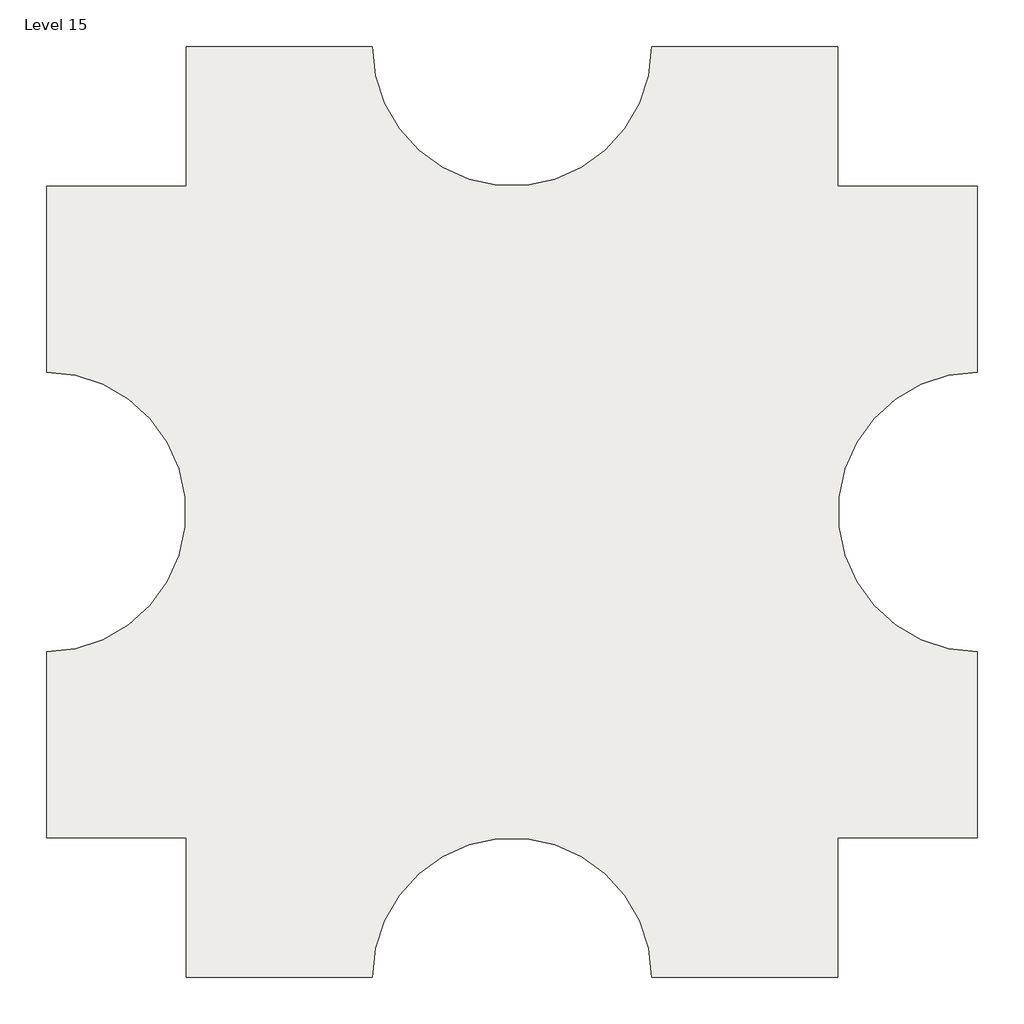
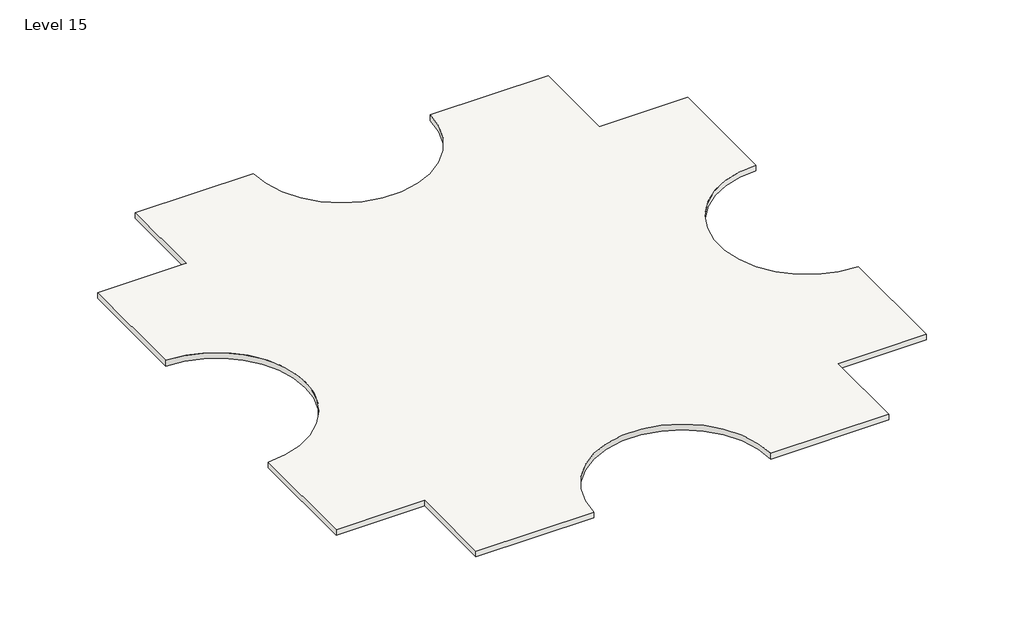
# One storey: 1 slab.
"""IFC4 building model written with IfcOpenShell, lengths in millimetres."""

import ifcopenshell
import ifcopenshell.guid

model = None  # the IFC model being written
_history = None  # IfcOwnerHistory: only IFC2X3 demands one
_inside = {}  # id of a spatial element -> (the spatial element, [elements in it])
_under = {}  # id of a project, library or spatial element -> (it, [spatial elements below it])
_declared = {}  # id of a project -> (the project, [libraries it declares])
_typed = {}  # id of a type object -> (the type object, [elements of that type])
_made_of = {}  # id of a material, layer set ... -> (it, [elements and type objects made of it])


def new_model(schema):
    """Start an empty IFC model of exactly this schema.

    Asked for "IFC4X3", IfcOpenShell would pick the latest addendum, in which some entities
    have other attributes; the version numbers below select the first issue.
    IFC2X3 requires an IfcOwnerHistory on every rooted entity: one is made here for all.
    """
    global model, _history
    if schema == "IFC4X3":
        model = ifcopenshell.file(schema_version=(4, 3, 0, 0))
    else:
        model = ifcopenshell.file(schema=schema)
    _inside.clear()
    _under.clear()
    _declared.clear()
    _typed.clear()
    _made_of.clear()
    _history = None
    if model.schema == "IFC2X3":
        org = make("IfcOrganization", Name="unknown")
        user = make(
            "IfcPersonAndOrganization",
            ThePerson=make("IfcPerson", FamilyName="unknown"),
            TheOrganization=org,
        )
        app = make(
            "IfcApplication",
            ApplicationDeveloper=org,
            Version="unknown",
            ApplicationFullName="unknown",
            ApplicationIdentifier="unknown",
        )
        _history = make(
            "IfcOwnerHistory",
            OwningUser=user,
            OwningApplication=app,
            ChangeAction="ADDED",
            CreationDate=0,
        )
    return model


def make(cls, **values):
    """One entity of the class cls with the attributes given. An attribute that is None is left unset."""
    return model.create_entity(
        cls, **{name: value for name, value in values.items() if value is not None}
    )


def rooted(cls, **values):
    """An entity with a GlobalId (a new one), such as an element, a storey or a relation."""
    return make(cls, GlobalId=ifcopenshell.guid.new(), OwnerHistory=_history, **values)


def si_unit(unit_type, name, prefix=None):
    """IfcSIUnit, for example si_unit("LENGTHUNIT", "METRE", prefix="MILLI")."""
    return make("IfcSIUnit", UnitType=unit_type, Prefix=prefix, Name=name)


def assignment(units):
    """IfcUnitAssignment: the units of a project."""
    return None if units is None else make("IfcUnitAssignment", Units=units)


def point(xyz):
    """IfcCartesianPoint."""
    return None if xyz is None else make("IfcCartesianPoint", Coordinates=xyz)


def direction(xyz):
    """IfcDirection."""
    return None if xyz is None else make("IfcDirection", DirectionRatios=xyz)


def frame(location, z_axis=None, x_axis=None):
    """IfcAxis2Placement3D, a coordinate frame: its origin and axes. An axis left out is left unset."""
    return make(
        "IfcAxis2Placement3D",
        Location=point(location),
        Axis=direction(z_axis),
        RefDirection=direction(x_axis),
    )


def frame_2d(location, x_axis=None):
    """IfcAxis2Placement2D, a coordinate frame in the plane: its origin and x axis."""
    return make(
        "IfcAxis2Placement2D", Location=point(location), RefDirection=direction(x_axis)
    )


def origin():
    """The frame at (0, 0, 0) with its axes left unset."""
    return frame((0.0, 0.0, 0.0))


def place(relative_to, where):
    """IfcLocalPlacement: puts the frame where relative to a parent placement (None: the world)."""
    return make(
        "IfcLocalPlacement", PlacementRelTo=relative_to, RelativePlacement=where
    )


def context(
    kind, dimensions, precision=None, world=None, true_north=None, identifier=None
):
    """IfcGeometricRepresentationContext, for example the 3D "Model" context."""
    return make(
        "IfcGeometricRepresentationContext",
        ContextIdentifier=identifier,
        ContextType=kind,
        CoordinateSpaceDimension=dimensions,
        Precision=precision,
        WorldCoordinateSystem=world,
        TrueNorth=true_north,
    )


def project(units=None, contexts=None):
    """IfcProject with its units and contexts."""
    return rooted(
        "IfcProject",
        Name="project",
        RepresentationContexts=contexts,
        UnitsInContext=assignment(units),
    )


def spatial(cls, under=None, at=None, **own):
    """A site, building, storey or space (cls), placed at a placement, below another one or the project."""
    s = rooted(cls, ObjectPlacement=at, **own)
    if under is not None:
        _under.setdefault(under.id(), (under, []))[1].append(s)
    return s


def polyline(points):
    """IfcPolyline through the points."""
    return make("IfcPolyline", Points=[point(p) for p in points])


def circle_curve(where, radius):
    """IfcCircle in the frame where."""
    return make("IfcCircle", Position=where, Radius=radius)


def trimmed(basis, trim1, trim2, sense, master):
    """IfcTrimmedCurve: the piece of a basis curve between two trims."""
    return make(
        "IfcTrimmedCurve",
        BasisCurve=basis,
        Trim1=trim1,
        Trim2=trim2,
        SenseAgreement=sense,
        MasterRepresentation=master,
    )


def segment(curve, same_sense, transition):
    """IfcCompositeCurveSegment."""
    return make(
        "IfcCompositeCurveSegment",
        Transition=transition,
        SameSense=same_sense,
        ParentCurve=curve,
    )


def composite_curve(segments, self_intersect=None):
    """IfcCompositeCurve: segments joined end to end."""
    return make("IfcCompositeCurve", Segments=segments, SelfIntersect=self_intersect)


def outline(outer, holes=None, kind="AREA"):
    """IfcArbitraryClosedProfileDef: a profile drawn as a closed curve; with holes, ...WithVoids."""
    if holes is None:
        return make("IfcArbitraryClosedProfileDef", ProfileType=kind, OuterCurve=outer)
    return make(
        "IfcArbitraryProfileDefWithVoids",
        ProfileType=kind,
        OuterCurve=outer,
        InnerCurves=holes,
    )


def extrude(swept, where, along, depth):
    """IfcExtrudedAreaSolid: the profile swept, set in the frame where, extruded along a direction by depth."""
    return make(
        "IfcExtrudedAreaSolid",
        SweptArea=swept,
        Position=where,
        ExtrudedDirection=direction(along),
        Depth=depth,
    )


def shape(context_of_items, identifier, shape_type, items):
    """IfcShapeRepresentation: the items that make up one representation, for example the "Body"."""
    return make(
        "IfcShapeRepresentation",
        ContextOfItems=context_of_items,
        RepresentationIdentifier=identifier,
        RepresentationType=shape_type,
        Items=items,
    )


def made_of(thing, what):
    """Note that an element or type object is made of a material, layer set ...; save() writes the relation."""
    if what is not None:
        _made_of.setdefault(what.id(), (what, []))[1].append(thing)
    return thing


def element(
    cls,
    number,
    at=None,
    inside=None,
    cuts=None,
    type_object=None,
    material=None,
    context=None,
    identifier="Body",
    shape_type=None,
    held_by="IfcProductDefinitionShape",
    body=None,
    shapes=None,
    **own,
):
    """One element of the class cls, such as IfcWall. Its Tag is "e" and its number.

    at: its placement. inside: the storey or other place that contains it. cuts: it is an
    opening in that element (IfcRelVoidsElement). A single representation is given by context,
    identifier, shape_type and body (its items); several are given by shapes. held_by: the class
    of the entity that holds the representations. save() writes the other relations.
    """
    e = rooted(cls, Tag="e%d" % number, ObjectPlacement=at, **own)
    if body is not None:
        shapes = [shape(context, identifier, shape_type, body)]
    if shapes is not None:
        e.Representation = make(held_by, Representations=shapes)
    if inside is not None:
        _inside.setdefault(inside.id(), (inside, []))[1].append(e)
    if cuts is not None:
        rooted(
            "IfcRelVoidsElement", RelatingBuildingElement=cuts, RelatedOpeningElement=e
        )
    if type_object is not None:
        _typed.setdefault(type_object.id(), (type_object, []))[1].append(e)
    return made_of(e, material)


def aggregate(whole, parts):
    """IfcRelAggregates: a whole, such as a stair, and the parts it consists of."""
    return rooted("IfcRelAggregates", RelatingObject=whole, RelatedObjects=parts)


def save(model, path):
    """Write the relations noted so far, then the file.

    IfcRelAggregates (storeys below a building ...), IfcRelContainedInSpatialStructure (elements
    in a storey), IfcRelDefinesByType, IfcRelAssociatesMaterial and IfcRelDeclares: one each for
    every whole, place, type object, material and project.
    """
    for whole, parts in _under.values():
        aggregate(whole, parts)
    for where, things in _inside.values():
        rooted(
            "IfcRelContainedInSpatialStructure",
            RelatedElements=things,
            RelatingStructure=where,
        )
    for kind, things in _typed.values():
        rooted("IfcRelDefinesByType", RelatedObjects=things, RelatingType=kind)
    for what, things in _made_of.values():
        rooted("IfcRelAssociatesMaterial", RelatedObjects=things, RelatingMaterial=what)
    for by, libraries in _declared.values():
        rooted("IfcRelDeclares", RelatingContext=by, RelatedDefinitions=libraries)
    model.write(path)


model = new_model("IFC4")

# Units and contexts
model_context = context("Model", 3, world=origin())
ifc_project = project(units=[si_unit("LENGTHUNIT", "METRE", prefix="MILLI")], contexts=[model_context])

# Site, building, storey
site = spatial("IfcSite", under=ifc_project)
building = spatial("IfcBuilding", under=site)
storey = spatial("IfcBuildingStorey", under=building, Name="Level 15", Elevation=42672.0)

# Slab
placement = place(None, origin())
element("IfcSlab", 1, ObjectType="Generic - 12\"", at=placement, inside=storey, context=model_context, shape_type="SweptSolid", body=[
    extrude(outline(composite_curve([segment(polyline([(-7150.3629456, 4479.6634547), (-7150.3629456, 9051.6634547), (-1054.3629456, 9051.6634547)]), True, "CONTINUOUS"), segment(trimmed(circle_curve(frame_2d((3517.6370544, 9051.6634547)), 4572.0), [point((-1054.3629456, 9051.6634547))], [point((8089.6370544, 9051.6634547))], True, "CARTESIAN"), True, "CONTINUOUS"), segment(polyline([(8089.6370544, 9051.6634547), (14185.6370544, 9051.6634547), (14185.6370544, 4479.6634547), (18757.6370544, 4479.6634547), (18757.6370544, -1616.3365453)]), True, "CONTINUOUS"), segment(trimmed(circle_curve(frame_2d((18757.6370544, -6188.3365453)), 4572.0), [point((18757.6370544, -1616.3365453))], [point((18757.6370544, -10760.3365453))], True, "CARTESIAN"), True, "CONTINUOUS"), segment(polyline([(18757.6370544, -10760.3365453), (18757.6370544, -16856.3365453), (14185.6370544, -16856.3365453), (14185.6370544, -21428.3365453), (8089.6370544, -21428.3365453)]), True, "CONTINUOUS"), segment(trimmed(circle_curve(frame_2d((3517.6370544, -21428.3365453)), 4572.0), [point((8089.6370544, -21428.3365453))], [point((-1054.3629456, -21428.3365453))], True, "CARTESIAN"), True, "CONTINUOUS"), segment(polyline([(-1054.3629456, -21428.3365453), (-7150.3629456, -21428.3365453), (-7150.3629456, -16856.3365453), (-11722.3629456, -16856.3365453), (-11722.3629456, -10760.3365453)]), True, "CONTINUOUS"), segment(trimmed(circle_curve(frame_2d((-11722.3629456, -6188.3365453)), 4572.0), [point((-11722.3629456, -10760.3365453))], [point((-11722.3629456, -1616.3365453))], True, "CARTESIAN"), True, "CONTINUOUS"), segment(polyline([(-11722.3629456, -1616.3365453), (-11722.3629456, 4479.6634547), (-7150.3629456, 4479.6634547)]), True, "CONTINUOUS")], self_intersect=False)), frame((0.0, 0.0, 42367.2), z_axis=(0.0, 0.0, 1.0), x_axis=(1.0, 0.0, 0.0)), (0.0, 0.0, 1.0), 304.8),
])

save(model, "model.ifc")
